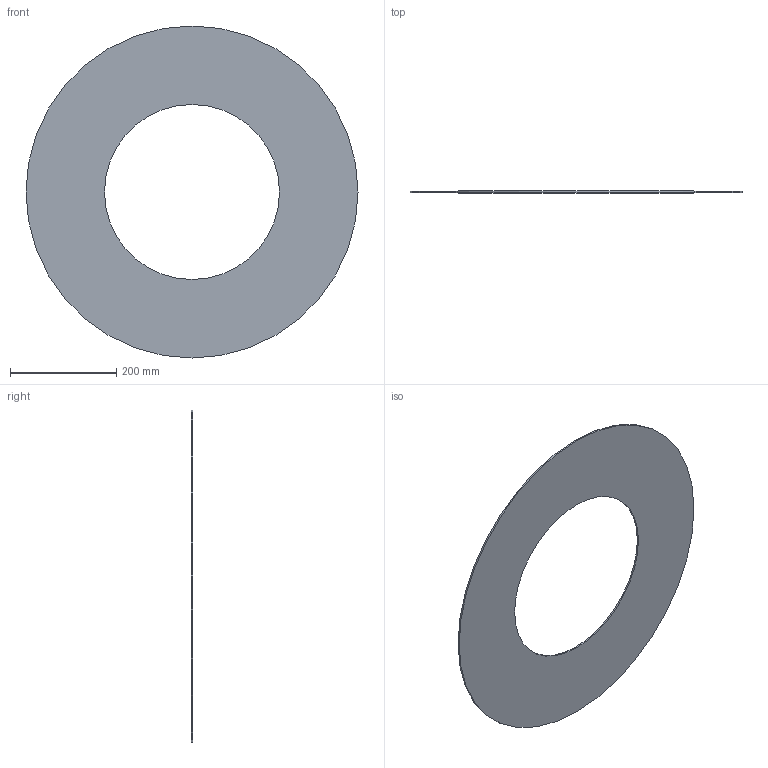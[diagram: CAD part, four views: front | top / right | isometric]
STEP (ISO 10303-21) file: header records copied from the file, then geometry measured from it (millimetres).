
FILE_DESCRIPTION(/* description */ ('Unknown'),/* implementation_level */ '2;1');
FILE_NAME(/* name */ 'GUA.450H',/* time_stamp */ '2021-04-01T15:08:41+02:00',/* author */ ('Unknown'),/* organization */ ('Unknown'),/* preprocessor_version */ 'ST-DEVELOPER v16.7',/* originating_system */ 'Solid Edge',/* authorisation */ 'Unknown');
FILE_SCHEMA (('AUTOMOTIVE_DESIGN {1 0 10303 214 3 1 1}'));
Length unit declared in the file: millimetre
Products named in the file (1): GUA.450H
Bounding box: 624 x 3 x 624 mm (x, y, z)
Volume: 662408.7 mm3; surface area: 450587.6 mm2
Topology: 1 solids, 1 shells, 4 faces, 6 edges, 4 vertices
Faces by surface type: cylinder 2, plane 2
Full cylindrical faces by diameter (mm): 329 x1, 624 x1
Entity records: 118 total; most frequent: DIRECTION 18, CARTESIAN_POINT 13, AXIS2_PLACEMENT_3D 9, ORIENTED_EDGE 8, EDGE_LOOP 8, FACE_BOUND 8, EDGE_CURVE 4, VERTEX_POINT 4
